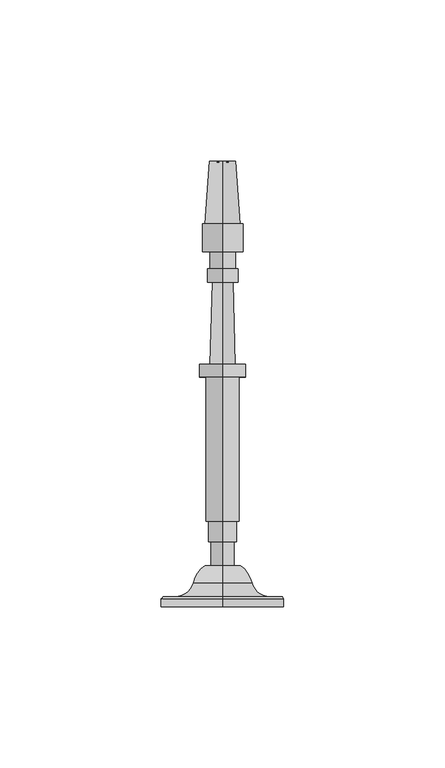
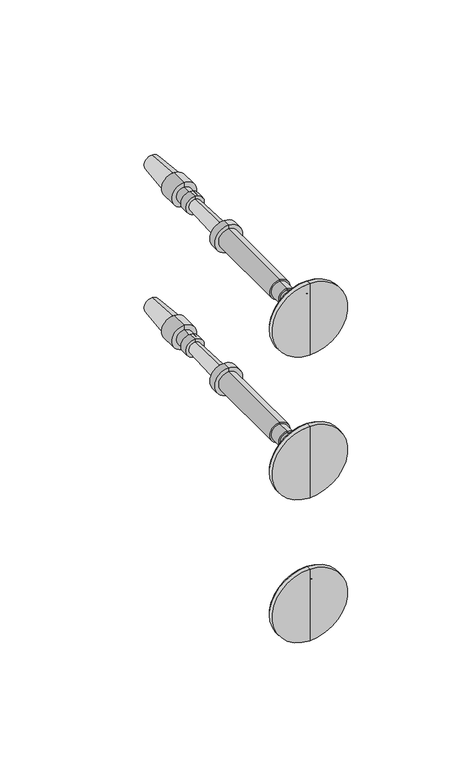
"""IFC4 building model written with IfcOpenShell, lengths in millimetres: railing geometry, RAILEASY CABLE RAILING CORNER TENSIONERS STAIR."""

from ifc_helpers import new_model, si_unit, point, frame, origin, place, context, project, spatial, polyline, circle_curve, ellipse_curve, trimmed, source, transform, mapped, element, save
from ifc_brep_helpers import plane_surface, cylinder_surface, revolved_surface, advanced_brep


def railing_d52af2fc(model_context):
    return source(origin(), model_context, "Body", "AdvancedBrep", [
        advanced_brep(
        [(4097.4568095, 16755.5660637, 32915.0001631), (4097.4568095, 16755.5660637, 32934.0501631), (4097.4568095, 16755.5660637, 32895.9501631), (4097.4568095, 16768.2587003, 32909.4769785), (4097.4568095, 16768.2587003, 32920.5233478), (4097.4568095, 16768.2587003, 32915.0001631), (4097.4568095, 16762.9826039, 32905.8720381), (4097.4568095, 16762.9826039, 32924.1282881), (4097.4568095, 16758.6169789, 32900.2458254), (4097.4568095, 16758.6169789, 32929.7545009), (4097.4568095, 16758.6169789, 32896.3762941), (4097.4568095, 16758.6169789, 32933.6240321), (4097.4568095, 16757.9473137, 32895.9501631), (4097.4568095, 16757.9473137, 32934.0501631)],
        [
            (0, 1),
            (1, 2, circle_curve(frame((4097.4568095, 16755.5660637, 32915.0001631), z_axis=(0.0, -1.0, 0.0), x_axis=(0.0, 0.0, 1.0)), 19.05)),
            (2, 0),
            (2, 1, circle_curve(frame((4097.4568095, 16755.5660637, 32915.0001631), z_axis=(0.0, -1.0, 0.0), x_axis=(0.0, 0.0, 1.0)), 19.05)),
            (3, 4, circle_curve(frame((4097.4568095, 16768.2587003, 32915.0001631), z_axis=(0.0, 1.0, 0.0), x_axis=(0.0, 0.0, 1.0)), 5.5231846)),
            (4, 5),
            (5, 3),
            (4, 3, circle_curve(frame((4097.4568095, 16768.2587003, 32915.0001631), z_axis=(0.0, 1.0, 0.0), x_axis=(0.0, 0.0, 1.0)), 5.5231846)),
            (6, 7, circle_curve(frame((4097.4568095, 16762.9826039, 32915.0001631), z_axis=(0.0, 1.0, 0.0), x_axis=(0.0, 0.0, 1.0)), 9.128125)),
            (7, 4, circle_curve(frame((4097.4568095, 16760.6581952, 32915.0628958), z_axis=(-1.0, 0.0, 0.0), x_axis=(0.0, 1.0, 0.0)), 9.3586438)),
            (3, 6, circle_curve(frame((4097.4568095, 16760.6581952, 32914.9374304), z_axis=(-1.0, 0.0, 0.0), x_axis=(0.0, 1.0, 0.0)), 9.3586438)),
            (7, 6, circle_curve(frame((4097.4568095, 16762.9826039, 32915.0001631), z_axis=(0.0, 1.0, 0.0), x_axis=(0.0, 0.0, 1.0)), 9.128125)),
            (8, 9, circle_curve(frame((4097.4568095, 16758.6169789, 32915.0001631), z_axis=(0.0, 1.0, 0.0), x_axis=(0.0, 0.0, 1.0)), 14.7543378)),
            (9, 7, circle_curve(frame((4097.4568095, 16764.4251909, 32929.7545009), z_axis=(1.0, 0.0, 0.0), x_axis=(0.0, 1.0, 0.0)), 5.8082121)),
            (6, 8, circle_curve(frame((4097.4568095, 16764.4251909, 32900.2458254), z_axis=(1.0, 0.0, 0.0), x_axis=(0.0, 1.0, 0.0)), 5.8082121)),
            (9, 8, circle_curve(frame((4097.4568095, 16758.6169789, 32915.0001631), z_axis=(0.0, 1.0, 0.0), x_axis=(0.0, 0.0, 1.0)), 14.7543378)),
            (10, 11, circle_curve(frame((4097.4568095, 16758.6169789, 32915.0001631), z_axis=(0.0, 1.0, 0.0), x_axis=(0.0, 0.0, 1.0)), 18.623869)),
            (11, 9),
            (8, 10),
            (11, 10, circle_curve(frame((4097.4568095, 16758.6169789, 32915.0001631), z_axis=(0.0, 1.0, 0.0), x_axis=(0.0, 0.0, 1.0)), 18.623869)),
            (12, 13, circle_curve(frame((4097.4568095, 16757.9473137, 32915.0001631), z_axis=(0.0, 1.0, 0.0), x_axis=(0.0, 0.0, 1.0)), 19.05)),
            (13, 11),
            (10, 12),
            (13, 12, circle_curve(frame((4097.4568095, 16757.9473137, 32915.0001631), z_axis=(0.0, 1.0, 0.0), x_axis=(0.0, 0.0, 1.0)), 19.05)),
            (1, 13),
            (12, 2),
        ],
        [
            plane_surface(frame((4097.4568095, 16755.5660637, 32915.0001631), z_axis=(0.0, -1.0, 0.0), x_axis=(0.0, 0.0, 1.0))),
            plane_surface(frame((4097.4568095, 16768.2587003, 32915.0001631), z_axis=(0.0, 1.0, 0.0), x_axis=(0.0, 0.0, 1.0))),
            revolved_surface(trimmed(ellipse_curve(frame((4097.4568095, 16760.6581952, 32915.0628958), z_axis=(1.0, 0.0, 0.0), x_axis=(0.0, 1.0, 0.0)), 9.3586438, 9.3586438), [point((4097.4568095, 16768.2587003, 32920.5233478))], [point((4097.4568095, 16762.9826039, 32924.1282881))], True, "CARTESIAN"), (4097.4568095, 16755.5660637, 32915.0001631), (0.0, -1.0, 0.0)),
            revolved_surface(trimmed(ellipse_curve(frame((4097.4568095, 16764.4251909, 32929.7545009), z_axis=(-1.0, 0.0, 0.0), x_axis=(0.0, 1.0, 0.0)), 5.8082121, 5.8082121), [point((4097.4568095, 16762.9826039, 32924.1282881))], [point((4097.4568095, 16758.6169789, 32929.7545009))], True, "CARTESIAN"), (4097.4568095, 16755.5660637, 32915.0001631), (0.0, -1.0, 0.0)),
            plane_surface(frame((4097.4568095, 16758.6169789, 32915.0001631), z_axis=(0.0, 1.0, 0.0), x_axis=(0.0, 0.0, 1.0))),
            revolved_surface(polyline([(4097.4568095, 16758.6169789, 32933.6240321), (4097.4568095, 16757.9473137, 32934.0501631)]), (4097.4568095, 16755.5660637, 32915.0001631), (0.0, -1.0, 0.0)),
            cylinder_surface(frame((4097.4568095, 16755.5660637, 32915.0001631), z_axis=(0.0, -1.0, 0.0), x_axis=(0.0, 0.0, 1.0)), 19.05),
        ],
        [
            (0, [[1, 2, 3]]),
            (0, [[-3, 4, -1]]),
            (1, [[5, 6, 7]]),
            (1, [[8, -7, -6]]),
            (2, [[9, 10, -5, 11]]),
            (2, [[12, -11, -8, -10]]),
            (3, [[13, 14, -9, 15]]),
            (3, [[16, -15, -12, -14]]),
            (4, [[17, 18, -13, 19]]),
            (4, [[20, -19, -16, -18]]),
            (5, [[21, 22, -17, 23]]),
            (5, [[24, -23, -20, -22]]),
            (6, [[-2, 25, -21, 26]]),
            (6, [[-4, -26, -24, -25]]),
        ],
    ),
        advanced_brep(
        [(4097.4568095, 16768.2587003, 32911.4282881), (4097.4568095, 16768.2587003, 32915.0001631), (4097.4568095, 16768.2587003, 32918.5720381), (4097.4568095, 16893.2025896, 32915.0001631), (4097.4568095, 16893.4982539, 32910.9757028), (4097.4568095, 16893.4982539, 32919.0246235), (4097.4568095, 16874.1548899, 32909.5546072), (4097.4568095, 16874.1548899, 32920.445719), (4097.4568095, 16874.1548899, 32908.6616385), (4097.4568095, 16874.1548899, 32921.3386877), (4097.4568095, 16865.5228587, 32908.6616385), (4097.4568095, 16865.5228587, 32921.3386877), (4097.4568095, 16865.5228587, 32911.0428885), (4097.4568095, 16865.5228587, 32918.9574377), (4097.4568095, 16860.1650462, 32911.0428885), (4097.4568095, 16860.1650462, 32918.9574377), (4097.4568095, 16860.1650462, 32910.2491385), (4097.4568095, 16860.1650462, 32919.7511877), (4097.4568095, 16856.0970774, 32910.2491385), (4097.4568095, 16856.0970774, 32919.7511877), (4097.4568095, 16856.0529903, 32911.8360262), (4097.4568095, 16856.0529903, 32918.1643), (4097.4568095, 16830.6627871, 32911.1306319), (4097.4568095, 16830.6627871, 32918.8696944), (4097.4568095, 16830.6627871, 32907.8564131), (4097.4568095, 16830.6627871, 32922.1439131), (4097.4568095, 16826.6940371, 32907.8564131), (4097.4568095, 16826.6940371, 32922.1439131), (4097.4568095, 16826.6940371, 32909.8407881), (4097.4568095, 16826.6940371, 32920.1595381), (4097.4568095, 16781.9463808, 32909.8407881), (4097.4568095, 16781.9463808, 32920.1595381), (4097.4568095, 16781.9463808, 32910.6345381), (4097.4568095, 16781.9463808, 32919.3657881), (4097.4568095, 16775.5963808, 32910.6345381), (4097.4568095, 16775.5963808, 32919.3657881), (4097.4568095, 16775.5963808, 32911.4282881), (4097.4568095, 16775.5963808, 32918.5720381)],
        [
            (0, 1),
            (1, 2),
            (2, 0, circle_curve(frame((4097.4568095, 16768.2587003, 32915.0001631), z_axis=(0.0, -1.0, 0.0), x_axis=(0.0, 0.0, 1.0000000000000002)), 3.571875)),
            (0, 2, circle_curve(frame((4097.4568095, 16768.2587003, 32915.0001631), z_axis=(0.0, -1.0, 0.0), x_axis=(0.0, 0.0, 1.0000000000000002)), 3.571875)),
            (3, 4),
            (4, 5, circle_curve(frame((4097.4568095, 16893.4982539, 32915.0001631), z_axis=(0.0, 1.0, 0.0), x_axis=(0.0, 0.0, 1.0000000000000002)), 4.0244604)),
            (5, 3),
            (5, 4, circle_curve(frame((4097.4568095, 16893.4982539, 32915.0001631), z_axis=(0.0, 1.0, 0.0), x_axis=(0.0, 0.0, 1.0000000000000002)), 4.0244604)),
            (4, 6),
            (6, 7, circle_curve(frame((4097.4568095, 16874.1548899, 32915.0001631), z_axis=(0.0, 1.0, 0.0), x_axis=(0.0, 0.0, 1.0000000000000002)), 5.4455559)),
            (7, 5),
            (7, 6, circle_curve(frame((4097.4568095, 16874.1548899, 32915.0001631), z_axis=(0.0, 1.0, 0.0), x_axis=(0.0, 0.0, 1.0000000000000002)), 5.4455559)),
            (6, 8),
            (8, 9, circle_curve(frame((4097.4568095, 16874.1548899, 32915.0001631), z_axis=(0.0, 1.0, 0.0), x_axis=(0.0, 0.0, 1.0000000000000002)), 6.3385246)),
            (9, 7),
            (9, 8, circle_curve(frame((4097.4568095, 16874.1548899, 32915.0001631), z_axis=(0.0, 1.0, 0.0), x_axis=(0.0, 0.0, 1.0000000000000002)), 6.3385246)),
            (8, 10),
            (10, 11, circle_curve(frame((4097.4568095, 16865.5228587, 32915.0001631), z_axis=(0.0, 1.0, 0.0), x_axis=(0.0, 0.0, 1.0000000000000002)), 6.3385246)),
            (11, 9),
            (11, 10, circle_curve(frame((4097.4568095, 16865.5228587, 32915.0001631), z_axis=(0.0, 1.0, 0.0), x_axis=(0.0, 0.0, 1.0000000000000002)), 6.3385246)),
            (10, 12),
            (12, 13, circle_curve(frame((4097.4568095, 16865.5228587, 32915.0001631), z_axis=(0.0, 1.0, 0.0), x_axis=(0.0, 0.0, 1.0000000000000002)), 3.9572746)),
            (13, 11),
            (13, 12, circle_curve(frame((4097.4568095, 16865.5228587, 32915.0001631), z_axis=(0.0, 1.0, 0.0), x_axis=(0.0, 0.0, 1.0000000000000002)), 3.9572746)),
            (12, 14),
            (14, 15, circle_curve(frame((4097.4568095, 16860.1650462, 32915.0001631), z_axis=(0.0, 1.0, 0.0), x_axis=(0.0, 0.0, 1.0000000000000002)), 3.9572746)),
            (15, 13),
            (15, 14, circle_curve(frame((4097.4568095, 16860.1650462, 32915.0001631), z_axis=(0.0, 1.0, 0.0), x_axis=(0.0, 0.0, 1.0000000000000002)), 3.9572746)),
            (14, 16),
            (16, 17, circle_curve(frame((4097.4568095, 16860.1650462, 32915.0001631), z_axis=(0.0, 1.0, 0.0), x_axis=(0.0, 0.0, 1.0000000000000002)), 4.7510246)),
            (17, 15),
            (17, 16, circle_curve(frame((4097.4568095, 16860.1650462, 32915.0001631), z_axis=(0.0, 1.0, 0.0), x_axis=(0.0, 0.0, 1.0000000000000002)), 4.7510246)),
            (16, 18),
            (18, 19, circle_curve(frame((4097.4568095, 16856.0970774, 32915.0001631), z_axis=(0.0, 1.0, 0.0), x_axis=(0.0, 0.0, 1.0000000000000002)), 4.7510246)),
            (19, 17),
            (19, 18, circle_curve(frame((4097.4568095, 16856.0970774, 32915.0001631), z_axis=(0.0, 1.0, 0.0), x_axis=(0.0, 0.0, 1.0000000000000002)), 4.7510246)),
            (18, 20),
            (20, 21, circle_curve(frame((4097.4568095, 16856.0529903, 32915.0001631), z_axis=(0.0, 1.0, 0.0), x_axis=(0.0, 0.0, 1.0000000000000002)), 3.1641369)),
            (21, 19),
            (21, 20, circle_curve(frame((4097.4568095, 16856.0529903, 32915.0001631), z_axis=(0.0, 1.0, 0.0), x_axis=(0.0, 0.0, 1.0000000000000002)), 3.1641369)),
            (20, 22),
            (22, 23, circle_curve(frame((4097.4568095, 16830.6627871, 32915.0001631), z_axis=(0.0, 1.0, 0.0), x_axis=(0.0, 0.0, 1.0000000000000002)), 3.8695313)),
            (23, 21),
            (23, 22, circle_curve(frame((4097.4568095, 16830.6627871, 32915.0001631), z_axis=(0.0, 1.0, 0.0), x_axis=(0.0, 0.0, 1.0000000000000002)), 3.8695313)),
            (22, 24),
            (24, 25, circle_curve(frame((4097.4568095, 16830.6627871, 32915.0001631), z_axis=(0.0, 1.0, 0.0), x_axis=(0.0, 0.0, 1.0000000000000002)), 7.14375)),
            (25, 23),
            (25, 24, circle_curve(frame((4097.4568095, 16830.6627871, 32915.0001631), z_axis=(0.0, 1.0, 0.0), x_axis=(0.0, 0.0, 1.0000000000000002)), 7.14375)),
            (24, 26),
            (26, 27, circle_curve(frame((4097.4568095, 16826.6940371, 32915.0001631), z_axis=(0.0, 1.0, 0.0), x_axis=(0.0, 0.0, 1.0000000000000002)), 7.14375)),
            (27, 25),
            (27, 26, circle_curve(frame((4097.4568095, 16826.6940371, 32915.0001631), z_axis=(0.0, 1.0, 0.0), x_axis=(0.0, 0.0, 1.0000000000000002)), 7.14375)),
            (26, 28),
            (28, 29, circle_curve(frame((4097.4568095, 16826.6940371, 32915.0001631), z_axis=(0.0, 1.0, 0.0), x_axis=(0.0, 0.0, 1.0000000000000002)), 5.159375)),
            (29, 27),
            (29, 28, circle_curve(frame((4097.4568095, 16826.6940371, 32915.0001631), z_axis=(0.0, 1.0, 0.0), x_axis=(0.0, 0.0, 1.0000000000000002)), 5.159375)),
            (28, 30),
            (30, 31, circle_curve(frame((4097.4568095, 16781.9463808, 32915.0001631), z_axis=(0.0, 1.0, 0.0), x_axis=(0.0, 0.0, 1.0000000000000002)), 5.159375)),
            (31, 29),
            (31, 30, circle_curve(frame((4097.4568095, 16781.9463808, 32915.0001631), z_axis=(0.0, 1.0, 0.0), x_axis=(0.0, 0.0, 1.0000000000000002)), 5.159375)),
            (30, 32),
            (32, 33, circle_curve(frame((4097.4568095, 16781.9463808, 32915.0001631), z_axis=(0.0, 1.0, 0.0), x_axis=(0.0, 0.0, 1.0000000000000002)), 4.365625)),
            (33, 31),
            (33, 32, circle_curve(frame((4097.4568095, 16781.9463808, 32915.0001631), z_axis=(0.0, 1.0, 0.0), x_axis=(0.0, 0.0, 1.0000000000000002)), 4.365625)),
            (32, 34),
            (34, 35, circle_curve(frame((4097.4568095, 16775.5963808, 32915.0001631), z_axis=(0.0, 1.0, 0.0), x_axis=(0.0, 0.0, 1.0000000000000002)), 4.365625)),
            (35, 33),
            (35, 34, circle_curve(frame((4097.4568095, 16775.5963808, 32915.0001631), z_axis=(0.0, 1.0, 0.0), x_axis=(0.0, 0.0, 1.0000000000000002)), 4.365625)),
            (34, 36),
            (36, 37, circle_curve(frame((4097.4568095, 16775.5963808, 32915.0001631), z_axis=(0.0, 1.0, 0.0), x_axis=(0.0, 0.0, 1.0000000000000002)), 3.571875)),
            (37, 35),
            (37, 36, circle_curve(frame((4097.4568095, 16775.5963808, 32915.0001631), z_axis=(0.0, 1.0, 0.0), x_axis=(0.0, 0.0, 1.0000000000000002)), 3.571875)),
            (36, 0),
            (2, 37),
        ],
        [
            plane_surface(frame((4097.4568095, 16768.2587003, 32915.0001631), z_axis=(0.0, -1.0, 0.0), x_axis=(0.0, 0.0, 1.0))),
            revolved_surface(polyline([(4097.4568095, 16893.4982539, 32919.0246235), (4097.4568095, 16893.2025896, 32915.0001631)]), (4097.4568095, 16893.2025896, 32915.0001631), (0.0, 1.0, 0.0)),
            revolved_surface(polyline([(4097.4568095, 16874.1548899, 32920.445719), (4097.4568095, 16893.4982539, 32919.0246235)]), (4097.4568095, 16893.2025896, 32915.0001631), (0.0, 1.0, 0.0)),
            plane_surface(frame((4097.4568095, 16874.1548899, 32915.0001631), z_axis=(0.0, 1.0, 0.0), x_axis=(0.0, 0.0, 1.0))),
            cylinder_surface(frame((4097.4568095, 16893.2025896, 32915.0001631), z_axis=(0.0, 1.0, 0.0), x_axis=(0.0, 0.0, 1.0000000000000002)), 6.3385246),
            plane_surface(frame((4097.4568095, 16865.5228587, 32915.0001631), z_axis=(0.0, -1.0, 0.0), x_axis=(0.0, 0.0, 1.0))),
            cylinder_surface(frame((4097.4568095, 16893.2025896, 32915.0001631), z_axis=(0.0, 1.0, 0.0), x_axis=(0.0, 0.0, 1.0000000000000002)), 3.9572746),
            plane_surface(frame((4097.4568095, 16860.1650462, 32915.0001631), z_axis=(0.0, 1.0, 0.0), x_axis=(0.0, 0.0, 1.0))),
            cylinder_surface(frame((4097.4568095, 16893.2025896, 32915.0001631), z_axis=(0.0, 1.0, 0.0), x_axis=(0.0, 0.0, 1.0000000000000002)), 4.7510246),
            plane_surface(frame((4097.4568095, 16856.0529903, 32915.0001631), z_axis=(0.0, -1.0, 0.0), x_axis=(0.0, 0.0, 1.0))),
            revolved_surface(polyline([(4097.4568095, 16830.6627871, 32918.8696944), (4097.4568095, 16856.0529903, 32918.1643)]), (4097.4568095, 16893.2025896, 32915.0001631), (0.0, 1.0, 0.0)),
            plane_surface(frame((4097.4568095, 16830.6627871, 32915.0001631), z_axis=(0.0, 1.0, 0.0), x_axis=(0.0, 0.0, 1.0))),
            cylinder_surface(frame((4097.4568095, 16893.2025896, 32915.0001631), z_axis=(0.0, 1.0, 0.0), x_axis=(0.0, 0.0, 1.0000000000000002)), 7.14375),
            plane_surface(frame((4097.4568095, 16826.6940371, 32915.0001631), z_axis=(0.0, -1.0, 0.0), x_axis=(0.0, 0.0, 1.0))),
            cylinder_surface(frame((4097.4568095, 16893.2025896, 32915.0001631), z_axis=(0.0, 1.0, 0.0), x_axis=(0.0, 0.0, 1.0000000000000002)), 5.159375),
            plane_surface(frame((4097.4568095, 16781.9463808, 32915.0001631), z_axis=(0.0, -1.0, 0.0), x_axis=(0.0, 0.0, 1.0))),
            cylinder_surface(frame((4097.4568095, 16893.2025896, 32915.0001631), z_axis=(0.0, 1.0, 0.0), x_axis=(0.0, 0.0, 1.0000000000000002)), 4.365625),
            plane_surface(frame((4097.4568095, 16775.5963808, 32915.0001631), z_axis=(0.0, -1.0, 0.0), x_axis=(0.0, 0.0, 1.0))),
            cylinder_surface(frame((4097.4568095, 16893.2025896, 32915.0001631), z_axis=(0.0, 1.0, 0.0), x_axis=(0.0, 0.0, 1.0000000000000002)), 3.571875),
        ],
        [
            (0, [[1, 2, 3]]),
            (0, [[-2, -1, 4]]),
            (1, [[5, 6, 7]]),
            (1, [[-7, 8, -5]]),
            (2, [[9, 10, 11, -6]]),
            (2, [[-11, 12, -9, -8]]),
            (3, [[13, 14, 15, -10]]),
            (3, [[-15, 16, -13, -12]]),
            (4, [[17, 18, 19, -14]]),
            (4, [[-19, 20, -17, -16]]),
            (5, [[21, 22, 23, -18]]),
            (5, [[-23, 24, -21, -20]]),
            (6, [[25, 26, 27, -22]]),
            (6, [[-27, 28, -25, -24]]),
            (7, [[29, 30, 31, -26]]),
            (7, [[-31, 32, -29, -28]]),
            (8, [[33, 34, 35, -30]]),
            (8, [[-35, 36, -33, -32]]),
            (9, [[37, 38, 39, -34]]),
            (9, [[-39, 40, -37, -36]]),
            (10, [[41, 42, 43, -38]]),
            (10, [[-43, 44, -41, -40]]),
            (11, [[45, 46, 47, -42]]),
            (11, [[-47, 48, -45, -44]]),
            (12, [[49, 50, 51, -46]]),
            (12, [[-51, 52, -49, -48]]),
            (13, [[53, 54, 55, -50]]),
            (13, [[-55, 56, -53, -52]]),
            (14, [[57, 58, 59, -54]]),
            (14, [[-59, 60, -57, -56]]),
            (15, [[61, 62, 63, -58]]),
            (15, [[-63, 64, -61, -60]]),
            (16, [[65, 66, 67, -62]]),
            (16, [[-67, 68, -65, -64]]),
            (17, [[69, 70, 71, -66]]),
            (17, [[-71, 72, -69, -68]]),
            (18, [[73, -3, 74, -70]]),
            (18, [[-74, -4, -73, -72]]),
        ],
    ),
        advanced_brep(
        [(4097.4568095, 16755.5660637, 32838.8001631), (4097.4568095, 16755.5660637, 32857.8501631), (4097.4568095, 16755.5660637, 32819.7501631), (4097.4568095, 16768.2587003, 32833.2769785), (4097.4568095, 16768.2587003, 32844.3233478), (4097.4568095, 16768.2587003, 32838.8001631), (4097.4568095, 16762.9826039, 32829.6720381), (4097.4568095, 16762.9826039, 32847.9282881), (4097.4568095, 16758.6169789, 32824.0458254), (4097.4568095, 16758.6169789, 32853.5545009), (4097.4568095, 16758.6169789, 32820.1762941), (4097.4568095, 16758.6169789, 32857.4240321), (4097.4568095, 16757.9473137, 32819.7501631), (4097.4568095, 16757.9473137, 32857.8501631)],
        [
            (0, 1),
            (1, 2, circle_curve(frame((4097.4568095, 16755.5660637, 32838.8001631), z_axis=(0.0, -1.0, 0.0), x_axis=(0.0, 0.0, 1.0)), 19.05)),
            (2, 0),
            (2, 1, circle_curve(frame((4097.4568095, 16755.5660637, 32838.8001631), z_axis=(0.0, -1.0, 0.0), x_axis=(0.0, 0.0, 1.0)), 19.05)),
            (3, 4, circle_curve(frame((4097.4568095, 16768.2587003, 32838.8001631), z_axis=(0.0, 1.0, 0.0), x_axis=(0.0, 0.0, 1.0)), 5.5231846)),
            (4, 5),
            (5, 3),
            (4, 3, circle_curve(frame((4097.4568095, 16768.2587003, 32838.8001631), z_axis=(0.0, 1.0, 0.0), x_axis=(0.0, 0.0, 1.0)), 5.5231846)),
            (6, 7, circle_curve(frame((4097.4568095, 16762.9826039, 32838.8001631), z_axis=(0.0, 1.0, 0.0), x_axis=(0.0, 0.0, 1.0)), 9.128125)),
            (7, 4, circle_curve(frame((4097.4568095, 16760.6581952, 32838.8628958), z_axis=(-1.0, 0.0, 0.0), x_axis=(0.0, 1.0, 0.0)), 9.3586438)),
            (3, 6, circle_curve(frame((4097.4568095, 16760.6581952, 32838.7374304), z_axis=(-1.0, 0.0, 0.0), x_axis=(0.0, 1.0, 0.0)), 9.3586438)),
            (7, 6, circle_curve(frame((4097.4568095, 16762.9826039, 32838.8001631), z_axis=(0.0, 1.0, 0.0), x_axis=(0.0, 0.0, 1.0)), 9.128125)),
            (8, 9, circle_curve(frame((4097.4568095, 16758.6169789, 32838.8001631), z_axis=(0.0, 1.0, 0.0), x_axis=(0.0, 0.0, 1.0)), 14.7543378)),
            (9, 7, circle_curve(frame((4097.4568095, 16764.4251909, 32853.5545009), z_axis=(1.0, 0.0, 0.0), x_axis=(0.0, 1.0, 0.0)), 5.8082121)),
            (6, 8, circle_curve(frame((4097.4568095, 16764.4251909, 32824.0458254), z_axis=(1.0, 0.0, 0.0), x_axis=(0.0, 1.0, 0.0)), 5.8082121)),
            (9, 8, circle_curve(frame((4097.4568095, 16758.6169789, 32838.8001631), z_axis=(0.0, 1.0, 0.0), x_axis=(0.0, 0.0, 1.0)), 14.7543378)),
            (10, 11, circle_curve(frame((4097.4568095, 16758.6169789, 32838.8001631), z_axis=(0.0, 1.0, 0.0), x_axis=(0.0, 0.0, 1.0)), 18.623869)),
            (11, 9),
            (8, 10),
            (11, 10, circle_curve(frame((4097.4568095, 16758.6169789, 32838.8001631), z_axis=(0.0, 1.0, 0.0), x_axis=(0.0, 0.0, 1.0)), 18.623869)),
            (12, 13, circle_curve(frame((4097.4568095, 16757.9473137, 32838.8001631), z_axis=(0.0, 1.0, 0.0), x_axis=(0.0, 0.0, 1.0)), 19.05)),
            (13, 11),
            (10, 12),
            (13, 12, circle_curve(frame((4097.4568095, 16757.9473137, 32838.8001631), z_axis=(0.0, 1.0, 0.0), x_axis=(0.0, 0.0, 1.0)), 19.05)),
            (1, 13),
            (12, 2),
        ],
        [
            plane_surface(frame((4097.4568095, 16755.5660637, 32838.8001631), z_axis=(0.0, -1.0, 0.0), x_axis=(0.0, 0.0, 1.0))),
            plane_surface(frame((4097.4568095, 16768.2587003, 32838.8001631), z_axis=(0.0, 1.0, 0.0), x_axis=(0.0, 0.0, 1.0))),
            revolved_surface(trimmed(ellipse_curve(frame((4097.4568095, 16760.6581952, 32838.8628958), z_axis=(1.0, 0.0, 0.0), x_axis=(0.0, 1.0, 0.0)), 9.3586438, 9.3586438), [point((4097.4568095, 16768.2587003, 32844.3233478))], [point((4097.4568095, 16762.9826039, 32847.9282881))], True, "CARTESIAN"), (4097.4568095, 16755.5660637, 32838.8001631), (0.0, -1.0, 0.0)),
            revolved_surface(trimmed(ellipse_curve(frame((4097.4568095, 16764.4251909, 32853.5545009), z_axis=(-1.0, 0.0, 0.0), x_axis=(0.0, 1.0, 0.0)), 5.8082121, 5.8082121), [point((4097.4568095, 16762.9826039, 32847.9282881))], [point((4097.4568095, 16758.6169789, 32853.5545009))], True, "CARTESIAN"), (4097.4568095, 16755.5660637, 32838.8001631), (0.0, -1.0, 0.0)),
            plane_surface(frame((4097.4568095, 16758.6169789, 32838.8001631), z_axis=(0.0, 1.0, 0.0), x_axis=(0.0, 0.0, 1.0))),
            revolved_surface(polyline([(4097.4568095, 16758.6169789, 32857.4240321), (4097.4568095, 16757.9473137, 32857.8501631)]), (4097.4568095, 16755.5660637, 32838.8001631), (0.0, -1.0, 0.0)),
            cylinder_surface(frame((4097.4568095, 16755.5660637, 32838.8001631), z_axis=(0.0, -1.0, 0.0), x_axis=(0.0, 0.0, 1.0)), 19.05),
        ],
        [
            (0, [[1, 2, 3]]),
            (0, [[-3, 4, -1]]),
            (1, [[5, 6, 7]]),
            (1, [[8, -7, -6]]),
            (2, [[9, 10, -5, 11]]),
            (2, [[12, -11, -8, -10]]),
            (3, [[13, 14, -9, 15]]),
            (3, [[16, -15, -12, -14]]),
            (4, [[17, 18, -13, 19]]),
            (4, [[20, -19, -16, -18]]),
            (5, [[21, 22, -17, 23]]),
            (5, [[24, -23, -20, -22]]),
            (6, [[-2, 25, -21, 26]]),
            (6, [[-4, -26, -24, -25]]),
        ],
    ),
        advanced_brep(
        [(4097.4568095, 16768.2587003, 32835.2282881), (4097.4568095, 16768.2587003, 32838.8001631), (4097.4568095, 16768.2587003, 32842.3720381), (4097.4568095, 16893.2025896, 32838.8001631), (4097.4568095, 16893.4982539, 32834.7757028), (4097.4568095, 16893.4982539, 32842.8246235), (4097.4568095, 16874.1548899, 32833.3546072), (4097.4568095, 16874.1548899, 32844.245719), (4097.4568095, 16874.1548899, 32832.4616385), (4097.4568095, 16874.1548899, 32845.1386877), (4097.4568095, 16865.5228587, 32832.4616385), (4097.4568095, 16865.5228587, 32845.1386877), (4097.4568095, 16865.5228587, 32834.8428885), (4097.4568095, 16865.5228587, 32842.7574377), (4097.4568095, 16860.1650462, 32834.8428885), (4097.4568095, 16860.1650462, 32842.7574377), (4097.4568095, 16860.1650462, 32834.0491385), (4097.4568095, 16860.1650462, 32843.5511877), (4097.4568095, 16856.0970774, 32834.0491385), (4097.4568095, 16856.0970774, 32843.5511877), (4097.4568095, 16856.0529903, 32835.6360262), (4097.4568095, 16856.0529903, 32841.9643), (4097.4568095, 16830.6627871, 32834.9306319), (4097.4568095, 16830.6627871, 32842.6696944), (4097.4568095, 16830.6627871, 32831.6564131), (4097.4568095, 16830.6627871, 32845.9439131), (4097.4568095, 16826.6940371, 32831.6564131), (4097.4568095, 16826.6940371, 32845.9439131), (4097.4568095, 16826.6940371, 32833.6407881), (4097.4568095, 16826.6940371, 32843.9595381), (4097.4568095, 16781.9463808, 32833.6407881), (4097.4568095, 16781.9463808, 32843.9595381), (4097.4568095, 16781.9463808, 32834.4345381), (4097.4568095, 16781.9463808, 32843.1657881), (4097.4568095, 16775.5963808, 32834.4345381), (4097.4568095, 16775.5963808, 32843.1657881), (4097.4568095, 16775.5963808, 32835.2282881), (4097.4568095, 16775.5963808, 32842.3720381)],
        [
            (0, 1),
            (1, 2),
            (2, 0, circle_curve(frame((4097.4568095, 16768.2587003, 32838.8001631), z_axis=(0.0, -1.0, 0.0), x_axis=(0.0, 0.0, 1.0000000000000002)), 3.571875)),
            (0, 2, circle_curve(frame((4097.4568095, 16768.2587003, 32838.8001631), z_axis=(0.0, -1.0, 0.0), x_axis=(0.0, 0.0, 1.0000000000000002)), 3.571875)),
            (3, 4),
            (4, 5, circle_curve(frame((4097.4568095, 16893.4982539, 32838.8001631), z_axis=(0.0, 1.0, 0.0), x_axis=(0.0, 0.0, 1.0000000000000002)), 4.0244604)),
            (5, 3),
            (5, 4, circle_curve(frame((4097.4568095, 16893.4982539, 32838.8001631), z_axis=(0.0, 1.0, 0.0), x_axis=(0.0, 0.0, 1.0000000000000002)), 4.0244604)),
            (4, 6),
            (6, 7, circle_curve(frame((4097.4568095, 16874.1548899, 32838.8001631), z_axis=(0.0, 1.0, 0.0), x_axis=(0.0, 0.0, 1.0000000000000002)), 5.4455559)),
            (7, 5),
            (7, 6, circle_curve(frame((4097.4568095, 16874.1548899, 32838.8001631), z_axis=(0.0, 1.0, 0.0), x_axis=(0.0, 0.0, 1.0000000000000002)), 5.4455559)),
            (6, 8),
            (8, 9, circle_curve(frame((4097.4568095, 16874.1548899, 32838.8001631), z_axis=(0.0, 1.0, 0.0), x_axis=(0.0, 0.0, 1.0000000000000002)), 6.3385246)),
            (9, 7),
            (9, 8, circle_curve(frame((4097.4568095, 16874.1548899, 32838.8001631), z_axis=(0.0, 1.0, 0.0), x_axis=(0.0, 0.0, 1.0000000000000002)), 6.3385246)),
            (8, 10),
            (10, 11, circle_curve(frame((4097.4568095, 16865.5228587, 32838.8001631), z_axis=(0.0, 1.0, 0.0), x_axis=(0.0, 0.0, 1.0000000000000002)), 6.3385246)),
            (11, 9),
            (11, 10, circle_curve(frame((4097.4568095, 16865.5228587, 32838.8001631), z_axis=(0.0, 1.0, 0.0), x_axis=(0.0, 0.0, 1.0000000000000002)), 6.3385246)),
            (10, 12),
            (12, 13, circle_curve(frame((4097.4568095, 16865.5228587, 32838.8001631), z_axis=(0.0, 1.0, 0.0), x_axis=(0.0, 0.0, 1.0000000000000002)), 3.9572746)),
            (13, 11),
            (13, 12, circle_curve(frame((4097.4568095, 16865.5228587, 32838.8001631), z_axis=(0.0, 1.0, 0.0), x_axis=(0.0, 0.0, 1.0000000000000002)), 3.9572746)),
            (12, 14),
            (14, 15, circle_curve(frame((4097.4568095, 16860.1650462, 32838.8001631), z_axis=(0.0, 1.0, 0.0), x_axis=(0.0, 0.0, 1.0000000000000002)), 3.9572746)),
            (15, 13),
            (15, 14, circle_curve(frame((4097.4568095, 16860.1650462, 32838.8001631), z_axis=(0.0, 1.0, 0.0), x_axis=(0.0, 0.0, 1.0000000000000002)), 3.9572746)),
            (14, 16),
            (16, 17, circle_curve(frame((4097.4568095, 16860.1650462, 32838.8001631), z_axis=(0.0, 1.0, 0.0), x_axis=(0.0, 0.0, 1.0000000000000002)), 4.7510246)),
            (17, 15),
            (17, 16, circle_curve(frame((4097.4568095, 16860.1650462, 32838.8001631), z_axis=(0.0, 1.0, 0.0), x_axis=(0.0, 0.0, 1.0000000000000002)), 4.7510246)),
            (16, 18),
            (18, 19, circle_curve(frame((4097.4568095, 16856.0970774, 32838.8001631), z_axis=(0.0, 1.0, 0.0), x_axis=(0.0, 0.0, 1.0000000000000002)), 4.7510246)),
            (19, 17),
            (19, 18, circle_curve(frame((4097.4568095, 16856.0970774, 32838.8001631), z_axis=(0.0, 1.0, 0.0), x_axis=(0.0, 0.0, 1.0000000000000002)), 4.7510246)),
            (18, 20),
            (20, 21, circle_curve(frame((4097.4568095, 16856.0529903, 32838.8001631), z_axis=(0.0, 1.0, 0.0), x_axis=(0.0, 0.0, 1.0000000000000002)), 3.1641369)),
            (21, 19),
            (21, 20, circle_curve(frame((4097.4568095, 16856.0529903, 32838.8001631), z_axis=(0.0, 1.0, 0.0), x_axis=(0.0, 0.0, 1.0000000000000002)), 3.1641369)),
            (20, 22),
            (22, 23, circle_curve(frame((4097.4568095, 16830.6627871, 32838.8001631), z_axis=(0.0, 1.0, 0.0), x_axis=(0.0, 0.0, 1.0000000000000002)), 3.8695313)),
            (23, 21),
            (23, 22, circle_curve(frame((4097.4568095, 16830.6627871, 32838.8001631), z_axis=(0.0, 1.0, 0.0), x_axis=(0.0, 0.0, 1.0000000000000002)), 3.8695313)),
            (22, 24),
            (24, 25, circle_curve(frame((4097.4568095, 16830.6627871, 32838.8001631), z_axis=(0.0, 1.0, 0.0), x_axis=(0.0, 0.0, 1.0000000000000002)), 7.14375)),
            (25, 23),
            (25, 24, circle_curve(frame((4097.4568095, 16830.6627871, 32838.8001631), z_axis=(0.0, 1.0, 0.0), x_axis=(0.0, 0.0, 1.0000000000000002)), 7.14375)),
            (24, 26),
            (26, 27, circle_curve(frame((4097.4568095, 16826.6940371, 32838.8001631), z_axis=(0.0, 1.0, 0.0), x_axis=(0.0, 0.0, 1.0000000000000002)), 7.14375)),
            (27, 25),
            (27, 26, circle_curve(frame((4097.4568095, 16826.6940371, 32838.8001631), z_axis=(0.0, 1.0, 0.0), x_axis=(0.0, 0.0, 1.0000000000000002)), 7.14375)),
            (26, 28),
            (28, 29, circle_curve(frame((4097.4568095, 16826.6940371, 32838.8001631), z_axis=(0.0, 1.0, 0.0), x_axis=(0.0, 0.0, 1.0000000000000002)), 5.159375)),
            (29, 27),
            (29, 28, circle_curve(frame((4097.4568095, 16826.6940371, 32838.8001631), z_axis=(0.0, 1.0, 0.0), x_axis=(0.0, 0.0, 1.0000000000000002)), 5.159375)),
            (28, 30),
            (30, 31, circle_curve(frame((4097.4568095, 16781.9463808, 32838.8001631), z_axis=(0.0, 1.0, 0.0), x_axis=(0.0, 0.0, 1.0000000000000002)), 5.159375)),
            (31, 29),
            (31, 30, circle_curve(frame((4097.4568095, 16781.9463808, 32838.8001631), z_axis=(0.0, 1.0, 0.0), x_axis=(0.0, 0.0, 1.0000000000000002)), 5.159375)),
            (30, 32),
            (32, 33, circle_curve(frame((4097.4568095, 16781.9463808, 32838.8001631), z_axis=(0.0, 1.0, 0.0), x_axis=(0.0, 0.0, 1.0000000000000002)), 4.365625)),
            (33, 31),
            (33, 32, circle_curve(frame((4097.4568095, 16781.9463808, 32838.8001631), z_axis=(0.0, 1.0, 0.0), x_axis=(0.0, 0.0, 1.0000000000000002)), 4.365625)),
            (32, 34),
            (34, 35, circle_curve(frame((4097.4568095, 16775.5963808, 32838.8001631), z_axis=(0.0, 1.0, 0.0), x_axis=(0.0, 0.0, 1.0000000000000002)), 4.365625)),
            (35, 33),
            (35, 34, circle_curve(frame((4097.4568095, 16775.5963808, 32838.8001631), z_axis=(0.0, 1.0, 0.0), x_axis=(0.0, 0.0, 1.0000000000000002)), 4.365625)),
            (34, 36),
            (36, 37, circle_curve(frame((4097.4568095, 16775.5963808, 32838.8001631), z_axis=(0.0, 1.0, 0.0), x_axis=(0.0, 0.0, 1.0000000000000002)), 3.571875)),
            (37, 35),
            (37, 36, circle_curve(frame((4097.4568095, 16775.5963808, 32838.8001631), z_axis=(0.0, 1.0, 0.0), x_axis=(0.0, 0.0, 1.0000000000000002)), 3.571875)),
            (36, 0),
            (2, 37),
        ],
        [
            plane_surface(frame((4097.4568095, 16768.2587003, 32838.8001631), z_axis=(0.0, -1.0, 0.0), x_axis=(0.0, 0.0, 1.0))),
            revolved_surface(polyline([(4097.4568095, 16893.4982539, 32842.8246235), (4097.4568095, 16893.2025896, 32838.8001631)]), (4097.4568095, 16893.2025896, 32838.8001631), (0.0, 1.0, 0.0)),
            revolved_surface(polyline([(4097.4568095, 16874.1548899, 32844.245719), (4097.4568095, 16893.4982539, 32842.8246235)]), (4097.4568095, 16893.2025896, 32838.8001631), (0.0, 1.0, 0.0)),
            plane_surface(frame((4097.4568095, 16874.1548899, 32838.8001631), z_axis=(0.0, 1.0, 0.0), x_axis=(0.0, 0.0, 1.0))),
            cylinder_surface(frame((4097.4568095, 16893.2025896, 32838.8001631), z_axis=(0.0, 1.0, 0.0), x_axis=(0.0, 0.0, 1.0000000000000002)), 6.3385246),
            plane_surface(frame((4097.4568095, 16865.5228587, 32838.8001631), z_axis=(0.0, -1.0, 0.0), x_axis=(0.0, 0.0, 1.0))),
            cylinder_surface(frame((4097.4568095, 16893.2025896, 32838.8001631), z_axis=(0.0, 1.0, 0.0), x_axis=(0.0, 0.0, 1.0000000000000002)), 3.9572746),
            plane_surface(frame((4097.4568095, 16860.1650462, 32838.8001631), z_axis=(0.0, 1.0, 0.0), x_axis=(0.0, 0.0, 1.0))),
            cylinder_surface(frame((4097.4568095, 16893.2025896, 32838.8001631), z_axis=(0.0, 1.0, 0.0), x_axis=(0.0, 0.0, 1.0000000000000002)), 4.7510246),
            plane_surface(frame((4097.4568095, 16856.0529903, 32838.8001631), z_axis=(0.0, -1.0, 0.0), x_axis=(0.0, 0.0, 1.0))),
            revolved_surface(polyline([(4097.4568095, 16830.6627871, 32842.6696944), (4097.4568095, 16856.0529903, 32841.9643)]), (4097.4568095, 16893.2025896, 32838.8001631), (0.0, 1.0, 0.0)),
            plane_surface(frame((4097.4568095, 16830.6627871, 32838.8001631), z_axis=(0.0, 1.0, 0.0), x_axis=(0.0, 0.0, 1.0))),
            cylinder_surface(frame((4097.4568095, 16893.2025896, 32838.8001631), z_axis=(0.0, 1.0, 0.0), x_axis=(0.0, 0.0, 1.0000000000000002)), 7.14375),
            plane_surface(frame((4097.4568095, 16826.6940371, 32838.8001631), z_axis=(0.0, -1.0, 0.0), x_axis=(0.0, 0.0, 1.0))),
            cylinder_surface(frame((4097.4568095, 16893.2025896, 32838.8001631), z_axis=(0.0, 1.0, 0.0), x_axis=(0.0, 0.0, 1.0000000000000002)), 5.159375),
            plane_surface(frame((4097.4568095, 16781.9463808, 32838.8001631), z_axis=(0.0, -1.0, 0.0), x_axis=(0.0, 0.0, 1.0))),
            cylinder_surface(frame((4097.4568095, 16893.2025896, 32838.8001631), z_axis=(0.0, 1.0, 0.0), x_axis=(0.0, 0.0, 1.0000000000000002)), 4.365625),
            plane_surface(frame((4097.4568095, 16775.5963808, 32838.8001631), z_axis=(0.0, -1.0, 0.0), x_axis=(0.0, 0.0, 1.0))),
            cylinder_surface(frame((4097.4568095, 16893.2025896, 32838.8001631), z_axis=(0.0, 1.0, 0.0), x_axis=(0.0, 0.0, 1.0000000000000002)), 3.571875),
        ],
        [
            (0, [[1, 2, 3]]),
            (0, [[-2, -1, 4]]),
            (1, [[5, 6, 7]]),
            (1, [[-7, 8, -5]]),
            (2, [[9, 10, 11, -6]]),
            (2, [[-11, 12, -9, -8]]),
            (3, [[13, 14, 15, -10]]),
            (3, [[-15, 16, -13, -12]]),
            (4, [[17, 18, 19, -14]]),
            (4, [[-19, 20, -17, -16]]),
            (5, [[21, 22, 23, -18]]),
            (5, [[-23, 24, -21, -20]]),
            (6, [[25, 26, 27, -22]]),
            (6, [[-27, 28, -25, -24]]),
            (7, [[29, 30, 31, -26]]),
            (7, [[-31, 32, -29, -28]]),
            (8, [[33, 34, 35, -30]]),
            (8, [[-35, 36, -33, -32]]),
            (9, [[37, 38, 39, -34]]),
            (9, [[-39, 40, -37, -36]]),
            (10, [[41, 42, 43, -38]]),
            (10, [[-43, 44, -41, -40]]),
            (11, [[45, 46, 47, -42]]),
            (11, [[-47, 48, -45, -44]]),
            (12, [[49, 50, 51, -46]]),
            (12, [[-51, 52, -49, -48]]),
            (13, [[53, 54, 55, -50]]),
            (13, [[-55, 56, -53, -52]]),
            (14, [[57, 58, 59, -54]]),
            (14, [[-59, 60, -57, -56]]),
            (15, [[61, 62, 63, -58]]),
            (15, [[-63, 64, -61, -60]]),
            (16, [[65, 66, 67, -62]]),
            (16, [[-67, 68, -65, -64]]),
            (17, [[69, 70, 71, -66]]),
            (17, [[-71, 72, -69, -68]]),
            (18, [[73, -3, 74, -70]]),
            (18, [[-74, -4, -73, -72]]),
        ],
    ),
        advanced_brep(
        [(4097.4568095, 16755.5660637, 32762.6001631), (4097.4568095, 16755.5660637, 32781.6501631), (4097.4568095, 16755.5660637, 32743.5501631), (4097.4568095, 16768.2587003, 32757.0769785), (4097.4568095, 16768.2587003, 32768.1233478), (4097.4568095, 16768.2587003, 32762.6001631), (4097.4568095, 16762.9826039, 32753.4720381), (4097.4568095, 16762.9826039, 32771.7282881), (4097.4568095, 16758.6169789, 32747.8458254), (4097.4568095, 16758.6169789, 32777.3545009), (4097.4568095, 16758.6169789, 32743.9762941), (4097.4568095, 16758.6169789, 32781.2240321), (4097.4568095, 16757.9473137, 32743.5501631), (4097.4568095, 16757.9473137, 32781.6501631)],
        [
            (0, 1),
            (1, 2, circle_curve(frame((4097.4568095, 16755.5660637, 32762.6001631), z_axis=(0.0, -1.0, 0.0), x_axis=(0.0, 0.0, 1.0)), 19.05)),
            (2, 0),
            (2, 1, circle_curve(frame((4097.4568095, 16755.5660637, 32762.6001631), z_axis=(0.0, -1.0, 0.0), x_axis=(0.0, 0.0, 1.0)), 19.05)),
            (3, 4, circle_curve(frame((4097.4568095, 16768.2587003, 32762.6001631), z_axis=(0.0, 1.0, 0.0), x_axis=(0.0, 0.0, 1.0)), 5.5231846)),
            (4, 5),
            (5, 3),
            (4, 3, circle_curve(frame((4097.4568095, 16768.2587003, 32762.6001631), z_axis=(0.0, 1.0, 0.0), x_axis=(0.0, 0.0, 1.0)), 5.5231846)),
            (6, 7, circle_curve(frame((4097.4568095, 16762.9826039, 32762.6001631), z_axis=(0.0, 1.0, 0.0), x_axis=(0.0, 0.0, 1.0)), 9.128125)),
            (7, 4, circle_curve(frame((4097.4568095, 16760.6581952, 32762.6628958), z_axis=(-1.0, 0.0, 0.0), x_axis=(0.0, 1.0, 0.0)), 9.3586438)),
            (3, 6, circle_curve(frame((4097.4568095, 16760.6581952, 32762.5374304), z_axis=(-1.0, 0.0, 0.0), x_axis=(0.0, 1.0, 0.0)), 9.3586438)),
            (7, 6, circle_curve(frame((4097.4568095, 16762.9826039, 32762.6001631), z_axis=(0.0, 1.0, 0.0), x_axis=(0.0, 0.0, 1.0)), 9.128125)),
            (8, 9, circle_curve(frame((4097.4568095, 16758.6169789, 32762.6001631), z_axis=(0.0, 1.0, 0.0), x_axis=(0.0, 0.0, 1.0)), 14.7543378)),
            (9, 7, circle_curve(frame((4097.4568095, 16764.4251909, 32777.3545009), z_axis=(1.0, 0.0, 0.0), x_axis=(0.0, 1.0, 0.0)), 5.8082121)),
            (6, 8, circle_curve(frame((4097.4568095, 16764.4251909, 32747.8458254), z_axis=(1.0, 0.0, 0.0), x_axis=(0.0, 1.0, 0.0)), 5.8082121)),
            (9, 8, circle_curve(frame((4097.4568095, 16758.6169789, 32762.6001631), z_axis=(0.0, 1.0, 0.0), x_axis=(0.0, 0.0, 1.0)), 14.7543378)),
            (10, 11, circle_curve(frame((4097.4568095, 16758.6169789, 32762.6001631), z_axis=(0.0, 1.0, 0.0), x_axis=(0.0, 0.0, 1.0)), 18.623869)),
            (11, 9),
            (8, 10),
            (11, 10, circle_curve(frame((4097.4568095, 16758.6169789, 32762.6001631), z_axis=(0.0, 1.0, 0.0), x_axis=(0.0, 0.0, 1.0)), 18.623869)),
            (12, 13, circle_curve(frame((4097.4568095, 16757.9473137, 32762.6001631), z_axis=(0.0, 1.0, 0.0), x_axis=(0.0, 0.0, 1.0)), 19.05)),
            (13, 11),
            (10, 12),
            (13, 12, circle_curve(frame((4097.4568095, 16757.9473137, 32762.6001631), z_axis=(0.0, 1.0, 0.0), x_axis=(0.0, 0.0, 1.0)), 19.05)),
            (1, 13),
            (12, 2),
        ],
        [
            plane_surface(frame((4097.4568095, 16755.5660637, 32762.6001631), z_axis=(0.0, -1.0, 0.0), x_axis=(0.0, 0.0, 1.0))),
            plane_surface(frame((4097.4568095, 16768.2587003, 32762.6001631), z_axis=(0.0, 1.0, 0.0), x_axis=(0.0, 0.0, 1.0))),
            revolved_surface(trimmed(ellipse_curve(frame((4097.4568095, 16760.6581952, 32762.6628958), z_axis=(1.0, 0.0, 0.0), x_axis=(0.0, 1.0, 0.0)), 9.3586438, 9.3586438), [point((4097.4568095, 16768.2587003, 32768.1233478))], [point((4097.4568095, 16762.9826039, 32771.7282881))], True, "CARTESIAN"), (4097.4568095, 16755.5660637, 32762.6001631), (0.0, -1.0, 0.0)),
            revolved_surface(trimmed(ellipse_curve(frame((4097.4568095, 16764.4251909, 32777.3545009), z_axis=(-1.0, 0.0, 0.0), x_axis=(0.0, 1.0, 0.0)), 5.8082121, 5.8082121), [point((4097.4568095, 16762.9826039, 32771.7282881))], [point((4097.4568095, 16758.6169789, 32777.3545009))], True, "CARTESIAN"), (4097.4568095, 16755.5660637, 32762.6001631), (0.0, -1.0, 0.0)),
            plane_surface(frame((4097.4568095, 16758.6169789, 32762.6001631), z_axis=(0.0, 1.0, 0.0), x_axis=(0.0, 0.0, 1.0))),
            revolved_surface(polyline([(4097.4568095, 16758.6169789, 32781.2240321), (4097.4568095, 16757.9473137, 32781.6501631)]), (4097.4568095, 16755.5660637, 32762.6001631), (0.0, -1.0, 0.0)),
            cylinder_surface(frame((4097.4568095, 16755.5660637, 32762.6001631), z_axis=(0.0, -1.0, 0.0), x_axis=(0.0, 0.0, 1.0)), 19.05),
        ],
        [
            (0, [[1, 2, 3]]),
            (0, [[-3, 4, -1]]),
            (1, [[5, 6, 7]]),
            (1, [[8, -7, -6]]),
            (2, [[9, 10, -5, 11]]),
            (2, [[12, -11, -8, -10]]),
            (3, [[13, 14, -9, 15]]),
            (3, [[16, -15, -12, -14]]),
            (4, [[17, 18, -13, 19]]),
            (4, [[20, -19, -16, -18]]),
            (5, [[21, 22, -17, 23]]),
            (5, [[24, -23, -20, -22]]),
            (6, [[-2, 25, -21, 26]]),
            (6, [[-4, -26, -24, -25]]),
        ],
    ),
    ])


if __name__ == "__main__":
    model = new_model("IFC4")
    model_context = context("Model", 3, world=origin())
    ifc_project = project(units=[si_unit("LENGTHUNIT", "METRE", prefix="MILLI")], contexts=[model_context])
    site = spatial("IfcSite", under=ifc_project)
    building = spatial("IfcBuilding", under=site)
    placement = place(None, origin())
    railing_shape = railing_d52af2fc(model_context)
    element("IfcRailing", 1, ObjectType="RAILEASY CABLE RAILING CORNER TENSIONERS STAIR", at=placement, inside=building, context=model_context, shape_type="MappedRepresentation", body=[
        mapped(railing_shape, transform((0.0, 0.0, 0.0), x_axis=(1.0, 0.0, 0.0), y_axis=(0.0, 1.0, 0.0), z_axis=(0.0, 0.0, 1.0))),
    ])
    save(model, "model.ifc")
